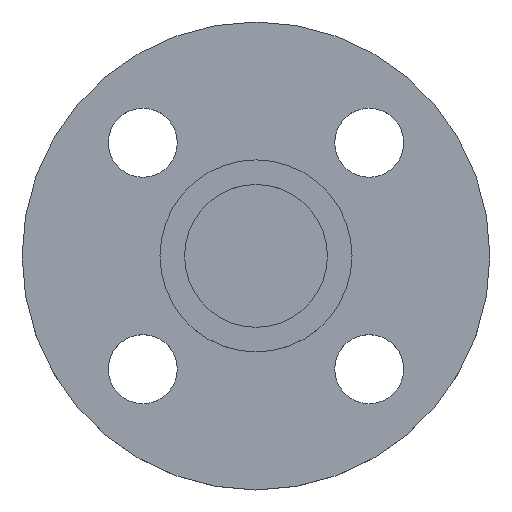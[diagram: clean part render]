
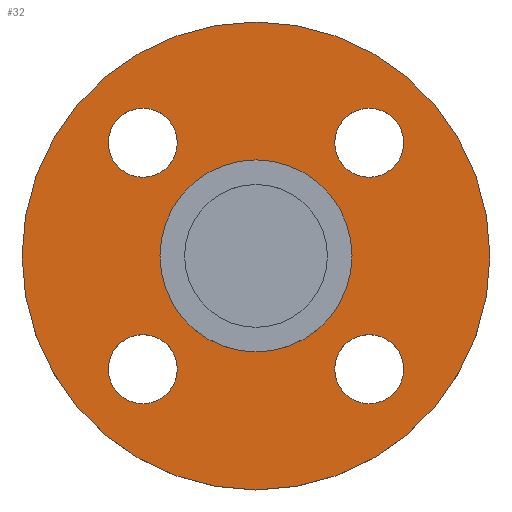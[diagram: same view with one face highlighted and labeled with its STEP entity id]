
A CAD part, top view. The second image highlights one B-rep face of the part: STEP entity #32.
In plain terms, the highlighted planar face has unit normal (0, 0, 1).
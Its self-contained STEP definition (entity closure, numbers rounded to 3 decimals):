
#5 = EDGE_CURVE ( 'NONE', #226, #234, #110, .T. ) ;
#8 = CARTESIAN_POINT ( 'NONE',  ( 22.981, -22.981, -4.5 ) ) ;
#17 = CIRCLE ( 'NONE', #555, 7. ) ;
#19 = AXIS2_PLACEMENT_3D ( 'NONE', #91, #118, #119 ) ;
#21 = AXIS2_PLACEMENT_3D ( 'NONE', #509, #510, #511 ) ;
#32 = ADVANCED_FACE ( 'NONE', ( #400, #401, #402, #403, #405, #406 ), #407, .T. ) ;
#41 = EDGE_CURVE ( 'NONE', #234, #226, #181, .T. ) ;
#45 = EDGE_CURVE ( 'NONE', #241, #223, #371, .T. ) ;
#47 = CIRCLE ( 'NONE', #502, 7. ) ;
#52 = CIRCLE ( 'NONE', #417, 7. ) ;
#56 = CARTESIAN_POINT ( 'NONE',  ( -29.981, 22.981, -4.5 ) ) ;
#60 = DIRECTION ( 'NONE',  ( 1., 0., 0. ) ) ;
#65 = DIRECTION ( 'NONE',  ( 0., 0., -1. ) ) ;
#69 = ORIENTED_EDGE ( 'NONE', *, *, #190, .T. ) ;
#71 = CIRCLE ( 'NONE', #446, 47.5 ) ;
#79 = CIRCLE ( 'NONE', #259, 7. ) ;
#91 = CARTESIAN_POINT ( 'NONE',  ( 0., 0., -4.5 ) ) ;
#97 = ORIENTED_EDGE ( 'NONE', *, *, #569, .T. ) ;
#98 = CIRCLE ( 'NONE', #21, 7. ) ;
#110 = CIRCLE ( 'NONE', #496, 19.5 ) ;
#114 = EDGE_CURVE ( 'NONE', #223, #241, #582, .T. ) ;
#118 = DIRECTION ( 'NONE',  ( 0., 0., -1. ) ) ;
#119 = DIRECTION ( 'NONE',  ( -1., 0., 0. ) ) ;
#123 = CARTESIAN_POINT ( 'NONE',  ( 22.981, -22.981, -4.5 ) ) ;
#124 = DIRECTION ( 'NONE',  ( 0., 0., -1. ) ) ;
#125 = DIRECTION ( 'NONE',  ( 1., 0., 0. ) ) ;
#136 = CIRCLE ( 'NONE', #387, 7. ) ;
#146 = AXIS2_PLACEMENT_3D ( 'NONE', #426, #427, #428 ) ;
#165 = EDGE_CURVE ( 'NONE', #337, #230, #71, .T. ) ;
#168 = CARTESIAN_POINT ( 'NONE',  ( -22.981, -22.981, -4.5 ) ) ;
#169 = DIRECTION ( 'NONE',  ( 0., 0., -1. ) ) ;
#170 = DIRECTION ( 'NONE',  ( 1., 0., 0. ) ) ;
#179 = CARTESIAN_POINT ( 'NONE',  ( -22.981, 22.981, -4.5 ) ) ;
#180 = DIRECTION ( 'NONE',  ( 0., 0., -1. ) ) ;
#181 = CIRCLE ( 'NONE', #146, 19.5 ) ;
#182 = DIRECTION ( 'NONE',  ( 1., 0., 0. ) ) ;
#190 = EDGE_CURVE ( 'NONE', #211, #313, #98, .T. ) ;
#211 = VERTEX_POINT ( 'NONE', #523 ) ;
#218 = EDGE_LOOP ( 'NONE', ( #293, #294 ) ) ;
#222 = EDGE_LOOP ( 'NONE', ( #97, #69 ) ) ;
#223 = VERTEX_POINT ( 'NONE', #540 ) ;
#226 = VERTEX_POINT ( 'NONE', #543 ) ;
#227 = EDGE_LOOP ( 'NONE', ( #295, #296 ) ) ;
#228 = EDGE_LOOP ( 'NONE', ( #291, #292 ) ) ;
#230 = VERTEX_POINT ( 'NONE', #546 ) ;
#233 = EDGE_LOOP ( 'NONE', ( #288, #290 ) ) ;
#234 = VERTEX_POINT ( 'NONE', #547 ) ;
#241 = VERTEX_POINT ( 'NONE', #556 ) ;
#243 = EDGE_LOOP ( 'NONE', ( #299, #301 ) ) ;
#252 = AXIS2_PLACEMENT_3D ( 'NONE', #408, #409, #410 ) ;
#259 = AXIS2_PLACEMENT_3D ( 'NONE', #179, #180, #182 ) ;
#288 = ORIENTED_EDGE ( 'NONE', *, *, #388, .T. ) ;
#290 = ORIENTED_EDGE ( 'NONE', *, *, #465, .T. ) ;
#291 = ORIENTED_EDGE ( 'NONE', *, *, #578, .T. ) ;
#292 = ORIENTED_EDGE ( 'NONE', *, *, #307, .T. ) ;
#293 = ORIENTED_EDGE ( 'NONE', *, *, #45, .T. ) ;
#294 = ORIENTED_EDGE ( 'NONE', *, *, #114, .T. ) ;
#295 = ORIENTED_EDGE ( 'NONE', *, *, #5, .T. ) ;
#296 = ORIENTED_EDGE ( 'NONE', *, *, #41, .T. ) ;
#299 = ORIENTED_EDGE ( 'NONE', *, *, #165, .F. ) ;
#301 = ORIENTED_EDGE ( 'NONE', *, *, #425, .F. ) ;
#307 = EDGE_CURVE ( 'NONE', #362, #358, #17, .T. ) ;
#313 = VERTEX_POINT ( 'NONE', #587 ) ;
#337 = VERTEX_POINT ( 'NONE', #591 ) ;
#352 = VERTEX_POINT ( 'NONE', #592 ) ;
#354 = VERTEX_POINT ( 'NONE', #593 ) ;
#358 = VERTEX_POINT ( 'NONE', #595 ) ;
#362 = VERTEX_POINT ( 'NONE', #56 ) ;
#371 = CIRCLE ( 'NONE', #485, 7. ) ;
#376 = CARTESIAN_POINT ( 'NONE',  ( 0., 0., -4.5 ) ) ;
#377 = DIRECTION ( 'NONE',  ( 0., 0., -1. ) ) ;
#378 = DIRECTION ( 'NONE',  ( -1., 0., 0. ) ) ;
#387 = AXIS2_PLACEMENT_3D ( 'NONE', #168, #169, #170 ) ;
#388 = EDGE_CURVE ( 'NONE', #354, #352, #52, .T. ) ;
#400 = FACE_BOUND ( 'NONE', #233, .T. ) ;
#401 = FACE_BOUND ( 'NONE', #222, .T. ) ;
#402 = FACE_BOUND ( 'NONE', #228, .T. ) ;
#403 = FACE_BOUND ( 'NONE', #218, .T. ) ;
#405 = FACE_BOUND ( 'NONE', #227, .T. ) ;
#406 = FACE_OUTER_BOUND ( 'NONE', #243, .T. ) ;
#407 = PLANE ( 'NONE',  #252 ) ;
#408 = CARTESIAN_POINT ( 'NONE',  ( 19.5, 0., -4.5 ) ) ;
#409 = DIRECTION ( 'NONE',  ( 0., 0., 1. ) ) ;
#410 = DIRECTION ( 'NONE',  ( 1., 0., 0. ) ) ;
#417 = AXIS2_PLACEMENT_3D ( 'NONE', #8, #65, #60 ) ;
#425 = EDGE_CURVE ( 'NONE', #230, #337, #544, .T. ) ;
#426 = CARTESIAN_POINT ( 'NONE',  ( 0., 0., -4.5 ) ) ;
#427 = DIRECTION ( 'NONE',  ( 0., 0., -1. ) ) ;
#428 = DIRECTION ( 'NONE',  ( -1., 0., 0. ) ) ;
#434 = CARTESIAN_POINT ( 'NONE',  ( 22.981, 22.981, -4.5 ) ) ;
#435 = DIRECTION ( 'NONE',  ( 0., 0., -1. ) ) ;
#436 = DIRECTION ( 'NONE',  ( 1., 0., 0. ) ) ;
#446 = AXIS2_PLACEMENT_3D ( 'NONE', #489, #490, #491 ) ;
#465 = EDGE_CURVE ( 'NONE', #352, #354, #47, .T. ) ;
#467 = CARTESIAN_POINT ( 'NONE',  ( 22.981, 22.981, -4.5 ) ) ;
#468 = DIRECTION ( 'NONE',  ( 0., 0., -1. ) ) ;
#469 = AXIS2_PLACEMENT_3D ( 'NONE', #467, #468, #470 ) ;
#470 = DIRECTION ( 'NONE',  ( 1., 0., 0. ) ) ;
#485 = AXIS2_PLACEMENT_3D ( 'NONE', #434, #435, #436 ) ;
#489 = CARTESIAN_POINT ( 'NONE',  ( 0., 0., -4.5 ) ) ;
#490 = DIRECTION ( 'NONE',  ( 0., 0., -1. ) ) ;
#491 = DIRECTION ( 'NONE',  ( -1., 0., 0. ) ) ;
#496 = AXIS2_PLACEMENT_3D ( 'NONE', #376, #377, #378 ) ;
#502 = AXIS2_PLACEMENT_3D ( 'NONE', #123, #124, #125 ) ;
#509 = CARTESIAN_POINT ( 'NONE',  ( -22.981, -22.981, -4.5 ) ) ;
#510 = DIRECTION ( 'NONE',  ( 0., 0., -1. ) ) ;
#511 = DIRECTION ( 'NONE',  ( 1., 0., 0. ) ) ;
#523 = CARTESIAN_POINT ( 'NONE',  ( -29.981, -22.981, -4.5 ) ) ;
#540 = CARTESIAN_POINT ( 'NONE',  ( 15.981, 22.981, -4.5 ) ) ;
#543 = CARTESIAN_POINT ( 'NONE',  ( -19.5, 0., -4.5 ) ) ;
#544 = CIRCLE ( 'NONE', #19, 47.5 ) ;
#546 = CARTESIAN_POINT ( 'NONE',  ( -47.5, 0., -4.5 ) ) ;
#547 = CARTESIAN_POINT ( 'NONE',  ( 19.5, 0., -4.5 ) ) ;
#555 = AXIS2_PLACEMENT_3D ( 'NONE', #584, #585, #586 ) ;
#556 = CARTESIAN_POINT ( 'NONE',  ( 29.981, 22.981, -4.5 ) ) ;
#569 = EDGE_CURVE ( 'NONE', #313, #211, #136, .T. ) ;
#578 = EDGE_CURVE ( 'NONE', #358, #362, #79, .T. ) ;
#582 = CIRCLE ( 'NONE', #469, 7. ) ;
#584 = CARTESIAN_POINT ( 'NONE',  ( -22.981, 22.981, -4.5 ) ) ;
#585 = DIRECTION ( 'NONE',  ( 0., 0., -1. ) ) ;
#586 = DIRECTION ( 'NONE',  ( 1., 0., 0. ) ) ;
#587 = CARTESIAN_POINT ( 'NONE',  ( -15.981, -22.981, -4.5 ) ) ;
#591 = CARTESIAN_POINT ( 'NONE',  ( 47.5, 0., -4.5 ) ) ;
#592 = CARTESIAN_POINT ( 'NONE',  ( 15.981, -22.981, -4.5 ) ) ;
#593 = CARTESIAN_POINT ( 'NONE',  ( 29.981, -22.981, -4.5 ) ) ;
#595 = CARTESIAN_POINT ( 'NONE',  ( -15.981, 22.981, -4.5 ) ) ;
